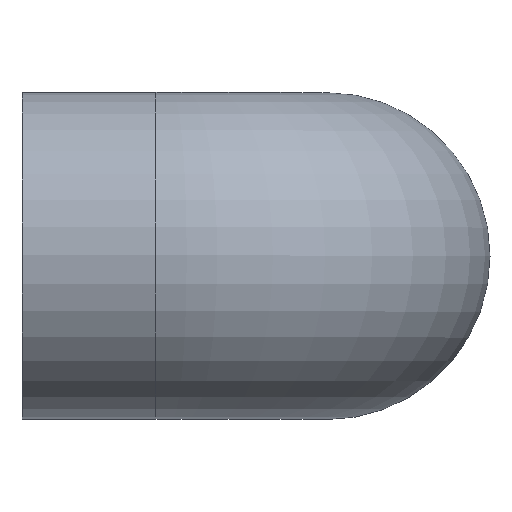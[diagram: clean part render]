
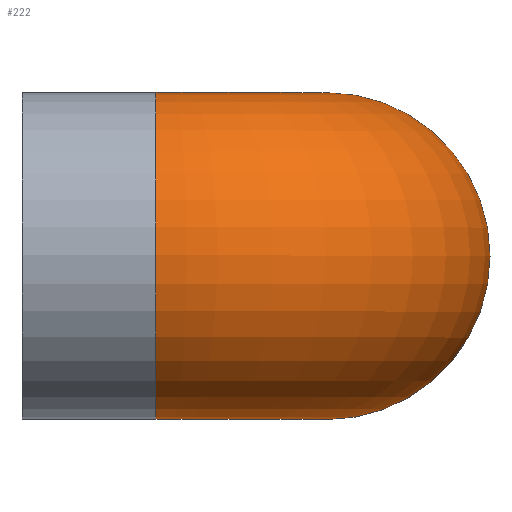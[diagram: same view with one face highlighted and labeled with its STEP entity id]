
A CAD part, top view. The second image highlights one B-rep face of the part: STEP entity #222.
In plain terms, the highlighted toroidal (fillet/blend) face has major radius 46.5 mm and minor radius 44.5 mm.
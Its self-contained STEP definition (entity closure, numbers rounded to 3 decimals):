
#25=FACE_BOUND('',#77,.T.);
#30=TOROIDAL_SURFACE('',#245,46.5,44.5);
#54=FACE_OUTER_BOUND('',#76,.T.);
#76=EDGE_LOOP('',(#193));
#77=EDGE_LOOP('',(#194));
#93=CIRCLE('',#244,44.5);
#94=CIRCLE('',#246,44.5);
#124=VERTEX_POINT('',#5111);
#125=VERTEX_POINT('',#5114);
#150=EDGE_CURVE('',#124,#124,#93,.T.);
#151=EDGE_CURVE('',#125,#125,#94,.T.);
#193=ORIENTED_EDGE('',*,*,#150,.F.);
#194=ORIENTED_EDGE('',*,*,#151,.T.);
#222=ADVANCED_FACE('',(#54,#25),#30,.T.);
#244=AXIS2_PLACEMENT_3D('',#5112,#288,#289);
#245=AXIS2_PLACEMENT_3D('',#5113,#290,#291);
#246=AXIS2_PLACEMENT_3D('',#5115,#292,#293);
#288=DIRECTION('center_axis',(-1.,0.,0.));
#289=DIRECTION('ref_axis',(0.,0.,-1.));
#290=DIRECTION('center_axis',(0.,-1.,0.));
#291=DIRECTION('ref_axis',(0.,0.,-1.));
#292=DIRECTION('center_axis',(0.,0.,1.));
#293=DIRECTION('ref_axis',(-1.,0.,0.));
#5111=CARTESIAN_POINT('',(-46.5,0.,127.5));
#5112=CARTESIAN_POINT('Origin',(-46.5,0.,83.));
#5113=CARTESIAN_POINT('Origin',(-46.5,0.,36.5));
#5114=CARTESIAN_POINT('',(44.5,0.,36.5));
#5115=CARTESIAN_POINT('Origin',(0.,0.,36.5));
